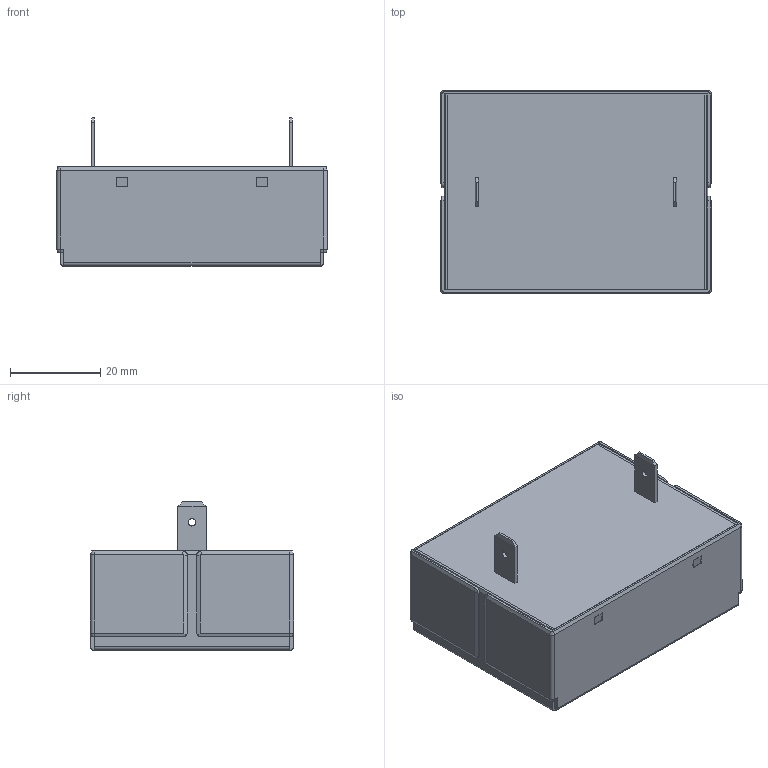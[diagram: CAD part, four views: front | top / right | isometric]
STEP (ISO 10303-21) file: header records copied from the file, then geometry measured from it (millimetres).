
FILE_DESCRIPTION (( 'STEP AP203' ), '1' );
FILE_NAME ('Assem2_100W_031_20251020.STEP', '2025-10-20T06:30:21', ( '' ), ( '' ), 'SwSTEP 2.0', 'SolidWorks 2015', '' );
FILE_SCHEMA (( 'CONFIG_CONTROL_DESIGN' ));
Length unit declared in the file: millimetre
Products named in the file (3): bracket_01_100W_20230823_1; Part2^Assem2_100W_03_20251020; Assem2_100W_031_20251020
Assembly tree (2 placements, depth 2):
  Assem2_100W_031_20251020
    bracket_01_100W_20230823_1
    Part2^Assem2_100W_03_20251020
Bounding box: 60 x 45 x 32.9 mm (x, y, z)
Volume: 59124.5 mm3; surface area: 26885 mm2
Topology: 2 solids, 2 shells, 158 faces, 392 edges, 240 vertices
Faces by surface type: plane 122, cylinder 24, cone 12
Entity records: 4889 total; most frequent: CARTESIAN_POINT 819, ORIENTED_EDGE 784, DIRECTION 766, EDGE_CURVE 392, LINE 328, VECTOR 328, VERTEX_POINT 240, AXIS2_PLACEMENT_3D 219
